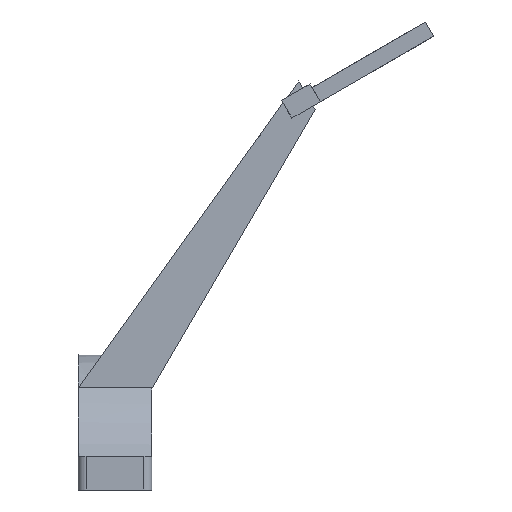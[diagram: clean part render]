
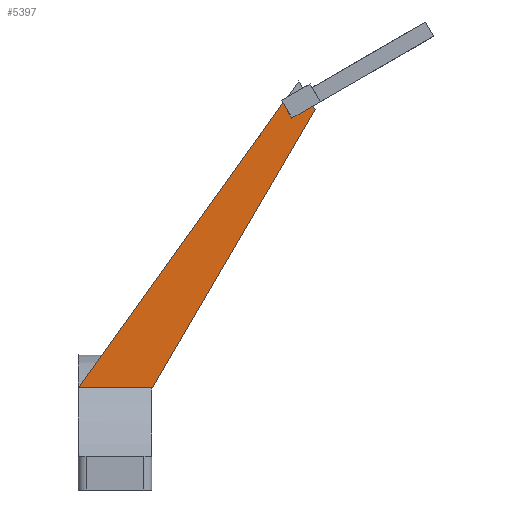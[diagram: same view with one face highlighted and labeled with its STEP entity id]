
A CAD part, front view. The second image highlights one B-rep face of the part: STEP entity #5397.
In plain terms, the highlighted planar face has unit normal (0, -1, 0).
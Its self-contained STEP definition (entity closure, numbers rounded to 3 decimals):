
#33 = CYLINDRICAL_SURFACE('',#34,33.8);
#34 = AXIS2_PLACEMENT_3D('',#35,#36,#37);
#35 = CARTESIAN_POINT('',(-54.,0.,0.));
#36 = DIRECTION('',(-1.,-0.,-0.));
#37 = DIRECTION('',(0.,1.,0.));
#307 = PLANE('',#308);
#308 = AXIS2_PLACEMENT_3D('',#309,#310,#311);
#309 = CARTESIAN_POINT('',(-36.,0.,0.)
  );
#310 = DIRECTION('',(1.,0.,0.));
#311 = DIRECTION('',(-0.,0.,1.));
#456 = VERTEX_POINT('',#457);
#457 = CARTESIAN_POINT('',(-53.885,-22.,25.66));
#475 = PLANE('',#476);
#476 = AXIS2_PLACEMENT_3D('',#477,#478,#479);
#477 = CARTESIAN_POINT('',(-0.124,-18.,100.598));
#478 = DIRECTION('',(0.813,0.,-0.583));
#479 = DIRECTION('',(-0.583,0.,-0.813));
#487 = EDGE_CURVE('',#488,#456,#490,.T.);
#488 = VERTEX_POINT('',#489);
#489 = CARTESIAN_POINT('',(-36.,-22.,25.66));
#490 = SURFACE_CURVE('',#491,(#495,#501),.PCURVE_S1.);
#491 = LINE('',#492,#493);
#492 = CARTESIAN_POINT('',(-54.,-22.,25.66));
#493 = VECTOR('',#494,1.);
#494 = DIRECTION('',(-1.,-0.,-0.));
#495 = PCURVE('',#33,#496);
#496 = DEFINITIONAL_REPRESENTATION('',(#497),#500);
#497 = B_SPLINE_CURVE_WITH_KNOTS('',1,(#498,#499),.UNSPECIFIED.,.F.,.F.,
  (2,2),(-18.,0.),.PIECEWISE_BEZIER_KNOTS.);
#498 = CARTESIAN_POINT('',(-2.28,-18.));
#499 = CARTESIAN_POINT('',(-2.28,0.));
#500 = ( GEOMETRIC_REPRESENTATION_CONTEXT(2) 
PARAMETRIC_REPRESENTATION_CONTEXT() REPRESENTATION_CONTEXT('2D SPACE',''
  ) );
#501 = PCURVE('',#502,#507);
#502 = PLANE('',#503);
#503 = AXIS2_PLACEMENT_3D('',#504,#505,#506);
#504 = CARTESIAN_POINT('',(-23.124,-22.,59.621));
#505 = DIRECTION('',(-0.,-1.,-0.));
#506 = DIRECTION('',(0.,0.,-1.));
#507 = DEFINITIONAL_REPRESENTATION('',(#508),#511);
#508 = B_SPLINE_CURVE_WITH_KNOTS('',1,(#509,#510),.UNSPECIFIED.,.F.,.F.,
  (2,2),(-18.,0.),.PIECEWISE_BEZIER_KNOTS.);
#509 = CARTESIAN_POINT('',(33.96,-12.876));
#510 = CARTESIAN_POINT('',(33.96,-30.876));
#511 = ( GEOMETRIC_REPRESENTATION_CONTEXT(2) 
PARAMETRIC_REPRESENTATION_CONTEXT() REPRESENTATION_CONTEXT('2D SPACE',''
  ) );
#1641 = PLANE('',#1642);
#1642 = AXIS2_PLACEMENT_3D('',#1643,#1644,#1645);
#1643 = CARTESIAN_POINT('',(15.5,0.,101.536));
#1644 = DIRECTION('',(0.5,0.,-0.866));
#1645 = DIRECTION('',(0.866,0.,0.5));
#2041 = VERTEX_POINT('',#2042);
#2042 = CARTESIAN_POINT('',(-1.821,-22.,91.536));
#2056 = PLANE('',#2057);
#2057 = AXIS2_PLACEMENT_3D('',#2058,#2059,#2060);
#2058 = CARTESIAN_POINT('',(-3.821,-20.,95.));
#2059 = DIRECTION('',(0.866,0.,0.5));
#2060 = DIRECTION('',(0.,1.,0.));
#2068 = EDGE_CURVE('',#2069,#2041,#2071,.T.);
#2069 = VERTEX_POINT('',#2070);
#2070 = CARTESIAN_POINT('',(3.376,-22.,94.536));
#2071 = SURFACE_CURVE('',#2072,(#2076,#2082),.PCURVE_S1.);
#2072 = LINE('',#2073,#2074);
#2073 = CARTESIAN_POINT('',(-8.059,-22.,87.934));
#2074 = VECTOR('',#2075,1.);
#2075 = DIRECTION('',(-0.866,0.,-0.5));
#2076 = PCURVE('',#1641,#2077);
#2077 = DEFINITIONAL_REPRESENTATION('',(#2078),#2081);
#2078 = B_SPLINE_CURVE_WITH_KNOTS('',1,(#2079,#2080),.UNSPECIFIED.,.F.,
  .F.,(2,2),(-13.781,-7.204),.PIECEWISE_BEZIER_KNOTS.);
#2079 = CARTESIAN_POINT('',(-13.423,22.));
#2080 = CARTESIAN_POINT('',(-20.,22.));
#2081 = ( GEOMETRIC_REPRESENTATION_CONTEXT(2) 
PARAMETRIC_REPRESENTATION_CONTEXT() REPRESENTATION_CONTEXT('2D SPACE',''
  ) );
#2082 = PCURVE('',#502,#2083);
#2083 = DEFINITIONAL_REPRESENTATION('',(#2084),#2087);
#2084 = B_SPLINE_CURVE_WITH_KNOTS('',1,(#2085,#2086),.UNSPECIFIED.,.F.,
  .F.,(2,2),(-13.781,-7.204),.PIECEWISE_BEZIER_KNOTS.);
#2085 = CARTESIAN_POINT('',(-35.204,27.));
#2086 = CARTESIAN_POINT('',(-31.915,21.304));
#2087 = ( GEOMETRIC_REPRESENTATION_CONTEXT(2) 
PARAMETRIC_REPRESENTATION_CONTEXT() REPRESENTATION_CONTEXT('2D SPACE',''
  ) );
#2104 = PLANE('',#2105);
#2105 = AXIS2_PLACEMENT_3D('',#2106,#2107,#2108);
#2106 = CARTESIAN_POINT('',(3.876,-18.,93.67));
#2107 = DIRECTION('',(-0.866,-0.,-0.5));
#2108 = DIRECTION('',(-0.5,0.,0.866));
#4946 = EDGE_CURVE('',#4947,#2041,#4949,.T.);
#4947 = VERTEX_POINT('',#4948);
#4948 = CARTESIAN_POINT('',(-3.963,-22.,95.247));
#4949 = SURFACE_CURVE('',#4950,(#4954,#4960),.PCURVE_S1.);
#4950 = LINE('',#4951,#4952);
#4951 = CARTESIAN_POINT('',(1.426,-22.,85.912));
#4952 = VECTOR('',#4953,1.);
#4953 = DIRECTION('',(0.5,0.,-0.866));
#4954 = PCURVE('',#2056,#4955);
#4955 = DEFINITIONAL_REPRESENTATION('',(#4956),#4959);
#4956 = B_SPLINE_CURVE_WITH_KNOTS('',1,(#4957,#4958),.UNSPECIFIED.,.F.,
  .F.,(2,2),(-11.494,-6.494),.PIECEWISE_BEZIER_KNOTS.);
#4957 = CARTESIAN_POINT('',(-2.,1.));
#4958 = CARTESIAN_POINT('',(-2.,-4.));
#4959 = ( GEOMETRIC_REPRESENTATION_CONTEXT(2) 
PARAMETRIC_REPRESENTATION_CONTEXT() REPRESENTATION_CONTEXT('2D SPACE',''
  ) );
#4960 = PCURVE('',#502,#4961);
#4961 = DEFINITIONAL_REPRESENTATION('',(#4962),#4965);
#4962 = B_SPLINE_CURVE_WITH_KNOTS('',1,(#4963,#4964),.UNSPECIFIED.,.F.,
  .F.,(2,2),(-11.494,-6.494),.PIECEWISE_BEZIER_KNOTS.);
#4963 = CARTESIAN_POINT('',(-36.245,18.804));
#4964 = CARTESIAN_POINT('',(-31.915,21.304));
#4965 = ( GEOMETRIC_REPRESENTATION_CONTEXT(2) 
PARAMETRIC_REPRESENTATION_CONTEXT() REPRESENTATION_CONTEXT('2D SPACE',''
  ) );
#5038 = VERTEX_POINT('',#5039);
#5039 = CARTESIAN_POINT('',(3.876,-22.,93.67));
#5053 = PLANE('',#5054);
#5054 = AXIS2_PLACEMENT_3D('',#5055,#5056,#5057);
#5055 = CARTESIAN_POINT('',(-36.,-18.,25.5));
#5056 = DIRECTION('',(-0.863,0.,0.505));
#5057 = DIRECTION('',(0.505,0.,0.863));
#5065 = EDGE_CURVE('',#5038,#2069,#5066,.T.);
#5066 = SURFACE_CURVE('',#5067,(#5071,#5078),.PCURVE_S1.);
#5067 = LINE('',#5068,#5069);
#5068 = CARTESIAN_POINT('',(3.876,-22.,93.67));
#5069 = VECTOR('',#5070,1.);
#5070 = DIRECTION('',(-0.5,0.,0.866));
#5071 = PCURVE('',#2104,#5072);
#5072 = DEFINITIONAL_REPRESENTATION('',(#5073),#5077);
#5073 = LINE('',#5074,#5075);
#5074 = CARTESIAN_POINT('',(0.,-4.));
#5075 = VECTOR('',#5076,1.);
#5076 = DIRECTION('',(1.,0.));
#5077 = ( GEOMETRIC_REPRESENTATION_CONTEXT(2) 
PARAMETRIC_REPRESENTATION_CONTEXT() REPRESENTATION_CONTEXT('2D SPACE',''
  ) );
#5078 = PCURVE('',#502,#5079);
#5079 = DEFINITIONAL_REPRESENTATION('',(#5080),#5084);
#5080 = LINE('',#5081,#5082);
#5081 = CARTESIAN_POINT('',(-34.049,27.));
#5082 = VECTOR('',#5083,1.);
#5083 = DIRECTION('',(-0.866,-0.5));
#5084 = ( GEOMETRIC_REPRESENTATION_CONTEXT(2) 
PARAMETRIC_REPRESENTATION_CONTEXT() REPRESENTATION_CONTEXT('2D SPACE',''
  ) );
#5093 = VERTEX_POINT('',#5094);
#5094 = CARTESIAN_POINT('',(-36.,-22.,25.5));
#5115 = EDGE_CURVE('',#5093,#5038,#5116,.T.);
#5116 = SURFACE_CURVE('',#5117,(#5121,#5128),.PCURVE_S1.);
#5117 = LINE('',#5118,#5119);
#5118 = CARTESIAN_POINT('',(-36.,-22.,25.5));
#5119 = VECTOR('',#5120,1.);
#5120 = DIRECTION('',(0.505,0.,0.863));
#5121 = PCURVE('',#5053,#5122);
#5122 = DEFINITIONAL_REPRESENTATION('',(#5123),#5127);
#5123 = LINE('',#5124,#5125);
#5124 = CARTESIAN_POINT('',(0.,-4.));
#5125 = VECTOR('',#5126,1.);
#5126 = DIRECTION('',(1.,0.));
#5127 = ( GEOMETRIC_REPRESENTATION_CONTEXT(2) 
PARAMETRIC_REPRESENTATION_CONTEXT() REPRESENTATION_CONTEXT('2D SPACE',''
  ) );
#5128 = PCURVE('',#502,#5129);
#5129 = DEFINITIONAL_REPRESENTATION('',(#5130),#5134);
#5130 = LINE('',#5131,#5132);
#5131 = CARTESIAN_POINT('',(34.121,-12.876));
#5132 = VECTOR('',#5133,1.);
#5133 = DIRECTION('',(-0.863,0.505));
#5134 = ( GEOMETRIC_REPRESENTATION_CONTEXT(2) 
PARAMETRIC_REPRESENTATION_CONTEXT() REPRESENTATION_CONTEXT('2D SPACE',''
  ) );
#5376 = EDGE_CURVE('',#4947,#456,#5377,.T.);
#5377 = SURFACE_CURVE('',#5378,(#5382,#5389),.PCURVE_S1.);
#5378 = LINE('',#5379,#5380);
#5379 = CARTESIAN_POINT('',(-0.124,-22.,100.598));
#5380 = VECTOR('',#5381,1.);
#5381 = DIRECTION('',(-0.583,0.,-0.813));
#5382 = PCURVE('',#475,#5383);
#5383 = DEFINITIONAL_REPRESENTATION('',(#5384),#5388);
#5384 = LINE('',#5385,#5386);
#5385 = CARTESIAN_POINT('',(-0.,-4.));
#5386 = VECTOR('',#5387,1.);
#5387 = DIRECTION('',(1.,0.));
#5388 = ( GEOMETRIC_REPRESENTATION_CONTEXT(2) 
PARAMETRIC_REPRESENTATION_CONTEXT() REPRESENTATION_CONTEXT('2D SPACE',''
  ) );
#5389 = PCURVE('',#502,#5390);
#5390 = DEFINITIONAL_REPRESENTATION('',(#5391),#5395);
#5391 = LINE('',#5392,#5393);
#5392 = CARTESIAN_POINT('',(-40.978,23.));
#5393 = VECTOR('',#5394,1.);
#5394 = DIRECTION('',(0.813,-0.583));
#5395 = ( GEOMETRIC_REPRESENTATION_CONTEXT(2) 
PARAMETRIC_REPRESENTATION_CONTEXT() REPRESENTATION_CONTEXT('2D SPACE',''
  ) );
#5397 = ADVANCED_FACE('',(#5398),#502,.T.);
#5398 = FACE_BOUND('',#5399,.T.);
#5399 = EDGE_LOOP('',(#5400,#5419,#5420,#5421,#5422,#5423,#5424));
#5400 = ORIENTED_EDGE('',*,*,#5401,.T.);
#5401 = EDGE_CURVE('',#488,#5093,#5402,.T.);
#5402 = SURFACE_CURVE('',#5403,(#5407,#5413),.PCURVE_S1.);
#5403 = LINE('',#5404,#5405);
#5404 = CARTESIAN_POINT('',(-36.,-22.,29.81));
#5405 = VECTOR('',#5406,1.);
#5406 = DIRECTION('',(0.,0.,-1.));
#5407 = PCURVE('',#502,#5408);
#5408 = DEFINITIONAL_REPRESENTATION('',(#5409),#5412);
#5409 = B_SPLINE_CURVE_WITH_KNOTS('',1,(#5410,#5411),.UNSPECIFIED.,.F.,
  .F.,(2,2),(-3.99,4.31),.PIECEWISE_BEZIER_KNOTS.);
#5410 = CARTESIAN_POINT('',(25.821,-12.876));
#5411 = CARTESIAN_POINT('',(34.121,-12.876));
#5412 = ( GEOMETRIC_REPRESENTATION_CONTEXT(2) 
PARAMETRIC_REPRESENTATION_CONTEXT() REPRESENTATION_CONTEXT('2D SPACE',''
  ) );
#5413 = PCURVE('',#307,#5414);
#5414 = DEFINITIONAL_REPRESENTATION('',(#5415),#5418);
#5415 = B_SPLINE_CURVE_WITH_KNOTS('',1,(#5416,#5417),.UNSPECIFIED.,.F.,
  .F.,(2,2),(-3.99,4.31),.PIECEWISE_BEZIER_KNOTS.);
#5416 = CARTESIAN_POINT('',(33.8,22.));
#5417 = CARTESIAN_POINT('',(25.5,22.));
#5418 = ( GEOMETRIC_REPRESENTATION_CONTEXT(2) 
PARAMETRIC_REPRESENTATION_CONTEXT() REPRESENTATION_CONTEXT('2D SPACE',''
  ) );
#5419 = ORIENTED_EDGE('',*,*,#5115,.T.);
#5420 = ORIENTED_EDGE('',*,*,#5065,.T.);
#5421 = ORIENTED_EDGE('',*,*,#2068,.T.);
#5422 = ORIENTED_EDGE('',*,*,#4946,.F.);
#5423 = ORIENTED_EDGE('',*,*,#5376,.T.);
#5424 = ORIENTED_EDGE('',*,*,#487,.F.);
